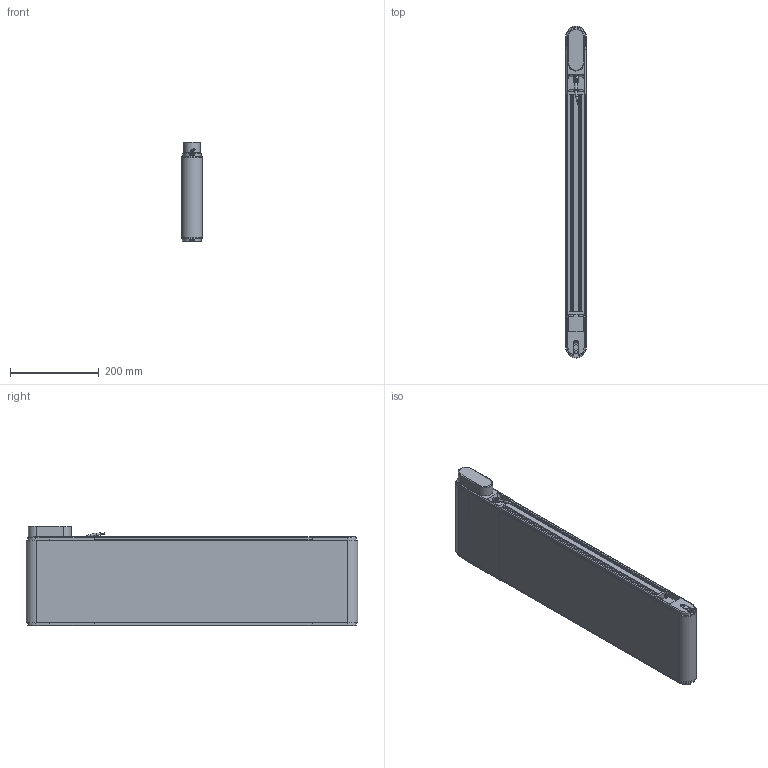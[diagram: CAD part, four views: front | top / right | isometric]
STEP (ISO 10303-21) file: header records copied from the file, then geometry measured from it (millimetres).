
FILE_DESCRIPTION(/* description */ (''),/* implementation_level */ '2;1');
FILE_NAME(/* name */ 'G:\DATEN\CAD\Förderband\Marketing\3D-Modelle (Standard)\FR-40-200-Q\FR-40-200-Q-700-K.stp',/* time_stamp */ '2019-05-09T09:49:40+02:00',/* author */ ('melanie.ochs'),/* organization */ (''),/* preprocessor_version */ 'ST-DEVELOPER v17',/* originating_system */ 'Autodesk Inventor 2019',/* authorisation */ '');
FILE_SCHEMA (('CONFIG_CONTROL_DESIGN'));
Length unit declared in the file: centimetre
Products named in the file (1): FR-40-200-Q-700-K
Bounding box: 46.6 x 746.6 x 224.5 mm (x, y, z)
Volume: 2791012.4 mm3; surface area: 935430.3 mm2
Topology: 6 solids, 25 shells, 930 faces, 2526 edges, 1685 vertices
Faces by surface type: plane 475, cylinder 293, cone 72, bspline 61, torus 29
Full cylindrical faces by diameter (mm): 1 x6, 3 x1, 4 x12, 4.3 x4, 4.917 x3, 5 x11, 5.5 x8, 6 x4, 6.5 x1, 6.773 x1, 6.917 x3, 8 x4, 8.3 x6, 8.5 x8, 8.773 x1, 10 x2, 11 x1, 12 x6, 25 x2, 28 x2, 28.01 x2, 30 x1
Entity records: 31338 total; most frequent: CARTESIAN_POINT 6877, ORIENTED_EDGE 5008, DIRECTION 4817, EDGE_CURVE 2504, AXIS2_PLACEMENT_3D 1734, VERTEX_POINT 1684, LINE 1349, VECTOR 1349
